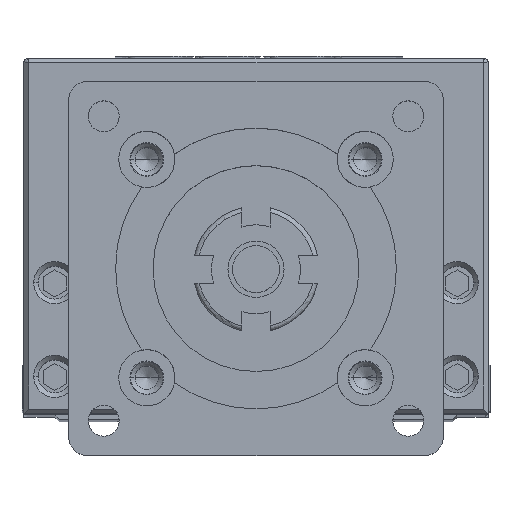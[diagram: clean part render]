
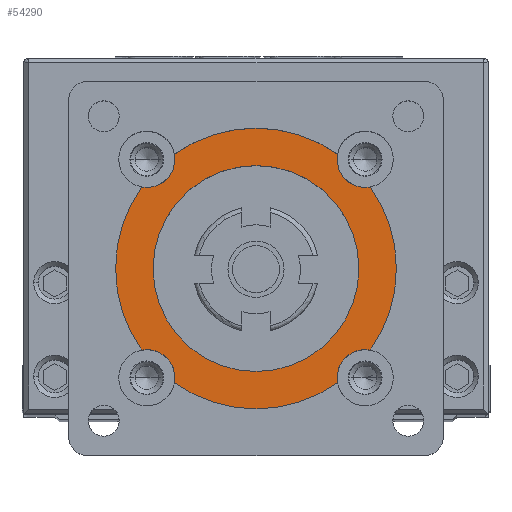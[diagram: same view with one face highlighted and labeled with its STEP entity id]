
A CAD part, top view. The second image highlights one B-rep face of the part: STEP entity #54290.
In plain terms, the highlighted planar face has unit normal (0, 0, 1).
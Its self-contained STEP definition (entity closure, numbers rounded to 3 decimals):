
#1268 = CARTESIAN_POINT ( 'NONE',  ( -12.208, -8.716, 5.5 ) ) ;
#1580 = CIRCLE ( 'NONE', #60881, 3. ) ;
#1631 = EDGE_CURVE ( 'NONE', #72986, #7012, #3225, .T. ) ;
#2119 = VERTEX_POINT ( 'NONE', #44359 ) ;
#2180 = CARTESIAN_POINT ( 'NONE',  ( 0., 0., 5.5 ) ) ;
#2615 = CARTESIAN_POINT ( 'NONE',  ( 11.667, 11.667, 5.5 ) ) ;
#2676 = CARTESIAN_POINT ( 'NONE',  ( 0., 0., 5.5 ) ) ;
#3225 = CIRCLE ( 'NONE', #49319, 3. ) ;
#3287 = CIRCLE ( 'NONE', #59923, 15. ) ;
#3616 = VERTEX_POINT ( 'NONE', #62602 ) ;
#4450 = DIRECTION ( 'NONE',  ( 1., 0., 0. ) ) ;
#4965 = CIRCLE ( 'NONE', #77564, 15. ) ;
#5048 = DIRECTION ( 'NONE',  ( 1., 0., 0. ) ) ;
#6915 = CARTESIAN_POINT ( 'NONE',  ( -11.667, 11.667, 5.5 ) ) ;
#7012 = VERTEX_POINT ( 'NONE', #43583 ) ;
#7227 = CARTESIAN_POINT ( 'NONE',  ( -11.667, -11.667, 5.5 ) ) ;
#7722 = CARTESIAN_POINT ( 'NONE',  ( 0., 0., 5.5 ) ) ;
#8181 = CARTESIAN_POINT ( 'NONE',  ( 8.716, -12.208, 5.5 ) ) ;
#8284 = CARTESIAN_POINT ( 'NONE',  ( 0., 0., 5.5 ) ) ;
#8398 = VERTEX_POINT ( 'NONE', #8181 ) ;
#8440 = CARTESIAN_POINT ( 'NONE',  ( -12.208, 8.716, 5.5 ) ) ;
#8623 = AXIS2_PLACEMENT_3D ( 'NONE', #2180, #64905, #34787 ) ;
#8764 = ORIENTED_EDGE ( 'NONE', *, *, #31117, .F. ) ;
#8998 = VERTEX_POINT ( 'NONE', #23148 ) ;
#9001 = CARTESIAN_POINT ( 'NONE',  ( -11., 0., 5.5 ) ) ;
#9070 = AXIS2_PLACEMENT_3D ( 'NONE', #62013, #50851, #5048 ) ;
#9722 = AXIS2_PLACEMENT_3D ( 'NONE', #66137, #22025, #28226 ) ;
#10427 = CIRCLE ( 'NONE', #9070, 3. ) ;
#10841 = AXIS2_PLACEMENT_3D ( 'NONE', #6915, #81667, #50234 ) ;
#11374 = ORIENTED_EDGE ( 'NONE', *, *, #58738, .T. ) ;
#11506 = EDGE_CURVE ( 'NONE', #8998, #79172, #4965, .T. ) ;
#11905 = CARTESIAN_POINT ( 'NONE',  ( -8.667, -11.667, 5.5 ) ) ;
#14131 = EDGE_CURVE ( 'NONE', #48001, #38194, #1580, .T. ) ;
#14226 = DIRECTION ( 'NONE',  ( 0., 0., 1. ) ) ;
#14880 = CIRCLE ( 'NONE', #33506, 3. ) ;
#14883 = ORIENTED_EDGE ( 'NONE', *, *, #40215, .F. ) ;
#15579 = EDGE_CURVE ( 'NONE', #42022, #76281, #14880, .T. ) ;
#15592 = AXIS2_PLACEMENT_3D ( 'NONE', #81325, #49884, #75539 ) ;
#15702 = ORIENTED_EDGE ( 'NONE', *, *, #15579, .F. ) ;
#16790 = ORIENTED_EDGE ( 'NONE', *, *, #33833, .T. ) ;
#17260 = CARTESIAN_POINT ( 'NONE',  ( 0., 0., 5.5 ) ) ;
#17484 = ORIENTED_EDGE ( 'NONE', *, *, #22218, .F. ) ;
#17647 = FACE_OUTER_BOUND ( 'NONE', #31993, .T. ) ;
#18379 = CARTESIAN_POINT ( 'NONE',  ( 8.716, 12.208, 5.5 ) ) ;
#18897 = DIRECTION ( 'NONE',  ( 1., 0., 0. ) ) ;
#20007 = AXIS2_PLACEMENT_3D ( 'NONE', #17260, #67633, #4450 ) ;
#22025 = DIRECTION ( 'NONE',  ( 0., 0., 1. ) ) ;
#22218 = EDGE_CURVE ( 'NONE', #76281, #41891, #51142, .T. ) ;
#22705 = EDGE_CURVE ( 'NONE', #48001, #2119, #34145, .T. ) ;
#23148 = CARTESIAN_POINT ( 'NONE',  ( 12.208, -8.716, 5.5 ) ) ;
#24459 = CARTESIAN_POINT ( 'NONE',  ( 12.208, 8.716, 5.5 ) ) ;
#24642 = ORIENTED_EDGE ( 'NONE', *, *, #22705, .T. ) ;
#25681 = ORIENTED_EDGE ( 'NONE', *, *, #45378, .T. ) ;
#27434 = EDGE_CURVE ( 'NONE', #44833, #32056, #64933, .T. ) ;
#28226 = DIRECTION ( 'NONE',  ( 1., 0., 0. ) ) ;
#28338 = DIRECTION ( 'NONE',  ( 0., 0., 1. ) ) ;
#30795 = DIRECTION ( 'NONE',  ( 1., 0., 0. ) ) ;
#31117 = EDGE_CURVE ( 'NONE', #3616, #8398, #71061, .T. ) ;
#31199 = DIRECTION ( 'NONE',  ( 0., 0., 1. ) ) ;
#31838 = ORIENTED_EDGE ( 'NONE', *, *, #14131, .F. ) ;
#31993 = EDGE_LOOP ( 'NONE', ( #14883, #54252, #25681, #33083, #31838, #24642, #69189, #49126, #11374, #17484, #15702, #16790, #8764 ) ) ;
#32056 = VERTEX_POINT ( 'NONE', #45139 ) ;
#33083 = ORIENTED_EDGE ( 'NONE', *, *, #81053, .F. ) ;
#33412 = CIRCLE ( 'NONE', #9722, 15. ) ;
#33468 = DIRECTION ( 'NONE',  ( 1., 0., 0. ) ) ;
#33506 = AXIS2_PLACEMENT_3D ( 'NONE', #7227, #31199, #30795 ) ;
#33531 = ORIENTED_EDGE ( 'NONE', *, *, #58892, .F. ) ;
#33833 = EDGE_CURVE ( 'NONE', #42022, #8398, #55569, .T. ) ;
#34145 = CIRCLE ( 'NONE', #80313, 15. ) ;
#34787 = DIRECTION ( 'NONE',  ( 1., 0., 0. ) ) ;
#38194 = VERTEX_POINT ( 'NONE', #75584 ) ;
#38540 = EDGE_CURVE ( 'NONE', #7012, #2119, #45104, .T. ) ;
#38671 = DIRECTION ( 'NONE',  ( 1., 0., 0. ) ) ;
#38763 = DIRECTION ( 'NONE',  ( 1., 0., 0. ) ) ;
#38938 = AXIS2_PLACEMENT_3D ( 'NONE', #68457, #50664, #18897 ) ;
#39384 = DIRECTION ( 'NONE',  ( 1., 0., 0. ) ) ;
#39582 = CARTESIAN_POINT ( 'NONE',  ( -11.667, 11.667, 5.5 ) ) ;
#39778 = DIRECTION ( 'NONE',  ( 1., 0., 0. ) ) ;
#40179 = CARTESIAN_POINT ( 'NONE',  ( 11.667, -11.667, 5.5 ) ) ;
#40215 = EDGE_CURVE ( 'NONE', #8998, #3616, #77217, .T. ) ;
#41709 = DIRECTION ( 'NONE',  ( 0., 0., 1. ) ) ;
#41891 = VERTEX_POINT ( 'NONE', #1268 ) ;
#42022 = VERTEX_POINT ( 'NONE', #73111 ) ;
#42827 = PLANE ( 'NONE',  #51710 ) ;
#43583 = CARTESIAN_POINT ( 'NONE',  ( -8.667, 11.667, 5.5 ) ) ;
#44160 = CIRCLE ( 'NONE', #8623, 11. ) ;
#44359 = CARTESIAN_POINT ( 'NONE',  ( -8.716, 12.208, 5.5 ) ) ;
#44453 = EDGE_LOOP ( 'NONE', ( #33531, #59503 ) ) ;
#44833 = VERTEX_POINT ( 'NONE', #9001 ) ;
#44859 = CARTESIAN_POINT ( 'NONE',  ( 0., 0., 5.5 ) ) ;
#45104 = CIRCLE ( 'NONE', #10841, 3. ) ;
#45139 = CARTESIAN_POINT ( 'NONE',  ( 11., 0., 5.5 ) ) ;
#45378 = EDGE_CURVE ( 'NONE', #79172, #70162, #33412, .T. ) ;
#46759 = DIRECTION ( 'NONE',  ( 0., 0., 1. ) ) ;
#47615 = DIRECTION ( 'NONE',  ( 0., 0., 1. ) ) ;
#48001 = VERTEX_POINT ( 'NONE', #18379 ) ;
#49126 = ORIENTED_EDGE ( 'NONE', *, *, #1631, .F. ) ;
#49319 = AXIS2_PLACEMENT_3D ( 'NONE', #39582, #65574, #38763 ) ;
#49884 = DIRECTION ( 'NONE',  ( 0., 0., 1. ) ) ;
#50234 = DIRECTION ( 'NONE',  ( 1., 0., 0. ) ) ;
#50664 = DIRECTION ( 'NONE',  ( 0., 0., 1. ) ) ;
#50851 = DIRECTION ( 'NONE',  ( 0., 0., 1. ) ) ;
#51142 = CIRCLE ( 'NONE', #15592, 3. ) ;
#51710 = AXIS2_PLACEMENT_3D ( 'NONE', #7722, #64245, #70893 ) ;
#52271 = DIRECTION ( 'NONE',  ( 0., 0., 1. ) ) ;
#54252 = ORIENTED_EDGE ( 'NONE', *, *, #11506, .T. ) ;
#54290 = ADVANCED_FACE ( 'NONE', ( #74291, #17647 ), #42827, .T. ) ;
#55569 = CIRCLE ( 'NONE', #20007, 15. ) ;
#58738 = EDGE_CURVE ( 'NONE', #72986, #41891, #3287, .T. ) ;
#58892 = EDGE_CURVE ( 'NONE', #32056, #44833, #44160, .T. ) ;
#59503 = ORIENTED_EDGE ( 'NONE', *, *, #27434, .F. ) ;
#59923 = AXIS2_PLACEMENT_3D ( 'NONE', #2676, #47615, #65832 ) ;
#60881 = AXIS2_PLACEMENT_3D ( 'NONE', #2615, #14226, #39384 ) ;
#62013 = CARTESIAN_POINT ( 'NONE',  ( 11.667, 11.667, 5.5 ) ) ;
#62602 = CARTESIAN_POINT ( 'NONE',  ( 8.667, -11.667, 5.5 ) ) ;
#64245 = DIRECTION ( 'NONE',  ( 0., 0., 1. ) ) ;
#64905 = DIRECTION ( 'NONE',  ( 0., 0., 1. ) ) ;
#64933 = CIRCLE ( 'NONE', #75545, 11. ) ;
#65574 = DIRECTION ( 'NONE',  ( 0., 0., 1. ) ) ;
#65832 = DIRECTION ( 'NONE',  ( 1., 0., 0. ) ) ;
#66137 = CARTESIAN_POINT ( 'NONE',  ( 0., 0., 5.5 ) ) ;
#67633 = DIRECTION ( 'NONE',  ( 0., 0., 1. ) ) ;
#68457 = CARTESIAN_POINT ( 'NONE',  ( 11.667, -11.667, 5.5 ) ) ;
#69189 = ORIENTED_EDGE ( 'NONE', *, *, #38540, .F. ) ;
#70162 = VERTEX_POINT ( 'NONE', #24459 ) ;
#70893 = DIRECTION ( 'NONE',  ( 1., 0., 0. ) ) ;
#70997 = AXIS2_PLACEMENT_3D ( 'NONE', #40179, #46759, #39778 ) ;
#71061 = CIRCLE ( 'NONE', #70997, 3. ) ;
#72505 = DIRECTION ( 'NONE',  ( 1., 0., 0. ) ) ;
#72986 = VERTEX_POINT ( 'NONE', #8440 ) ;
#73111 = CARTESIAN_POINT ( 'NONE',  ( -8.716, -12.208, 5.5 ) ) ;
#73347 = CARTESIAN_POINT ( 'NONE',  ( 15., 0., 5.5 ) ) ;
#74291 = FACE_BOUND ( 'NONE', #44453, .T. ) ;
#75539 = DIRECTION ( 'NONE',  ( 1., 0., 0. ) ) ;
#75545 = AXIS2_PLACEMENT_3D ( 'NONE', #8284, #41709, #33468 ) ;
#75584 = CARTESIAN_POINT ( 'NONE',  ( 8.667, 11.667, 5.5 ) ) ;
#76281 = VERTEX_POINT ( 'NONE', #11905 ) ;
#77217 = CIRCLE ( 'NONE', #38938, 3. ) ;
#77564 = AXIS2_PLACEMENT_3D ( 'NONE', #44859, #52271, #38671 ) ;
#78696 = CARTESIAN_POINT ( 'NONE',  ( 0., 0., 5.5 ) ) ;
#79172 = VERTEX_POINT ( 'NONE', #73347 ) ;
#80313 = AXIS2_PLACEMENT_3D ( 'NONE', #78696, #28338, #72505 ) ;
#81053 = EDGE_CURVE ( 'NONE', #38194, #70162, #10427, .T. ) ;
#81325 = CARTESIAN_POINT ( 'NONE',  ( -11.667, -11.667, 5.5 ) ) ;
#81667 = DIRECTION ( 'NONE',  ( 0., 0., 1. ) ) ;
